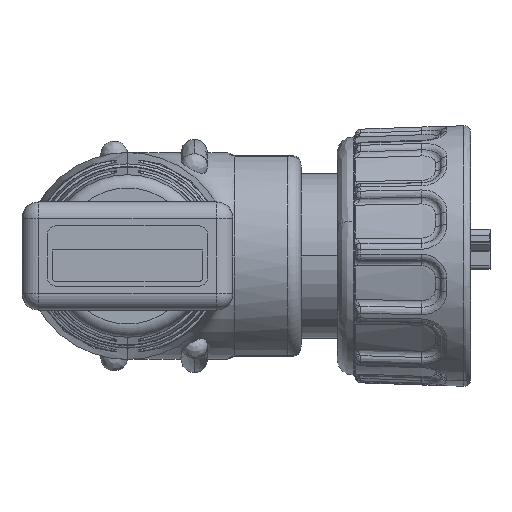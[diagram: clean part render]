
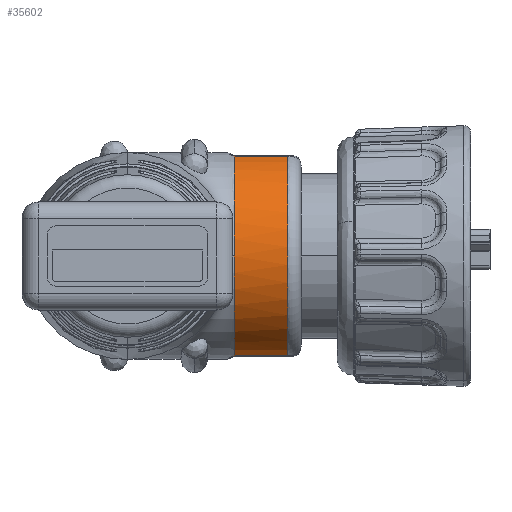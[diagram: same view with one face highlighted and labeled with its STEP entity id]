
A CAD part, front view. The second image highlights one B-rep face of the part: STEP entity #35602.
In plain terms, the highlighted cylindrical face has radius 7.75 mm (diameter 15.5 mm), a partial arc.
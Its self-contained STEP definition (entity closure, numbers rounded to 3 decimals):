
#16073 = CARTESIAN_POINT ( 'NONE',  ( -4.866, -2.018, 7.483 ) ) ;
#16074 = CARTESIAN_POINT ( 'NONE',  ( -1., -2.018, 7.483 ) ) ;
#16128 = CARTESIAN_POINT ( 'NONE',  ( -5., -1.982, 7.492 ) ) ;
#16129 = CARTESIAN_POINT ( 'NONE',  ( -4.959, -2.004, 7.486 ) ) ;
#16130 = CARTESIAN_POINT ( 'NONE',  ( -4.913, -2.018, 7.483 ) ) ;
#16131 = CARTESIAN_POINT ( 'NONE',  ( -4.866, -2.018, 7.483 ) ) ;
#16136 = B_SPLINE_CURVE_WITH_KNOTS ( 'NONE', 3,
 ( #16131, #16130, #16129, #16128 ),
 .UNSPECIFIED., .F., .F.,
 ( 4, 4 ),
 ( 0., 0. ),
 .UNSPECIFIED. ) ;
#16141 = DIRECTION ( 'NONE',  ( -1., 0., 0. ) ) ;
#16142 = VECTOR ( 'NONE', #16141, 1000. ) ;
#16143 = CARTESIAN_POINT ( 'NONE',  ( -5., -2.018, 7.483 ) ) ;
#16144 = LINE ( 'NONE', #16143, #16142 ) ;
#16179 = CARTESIAN_POINT ( 'NONE',  ( -5., -1.982, -7.492 ) ) ;
#16184 = B_SPLINE_CURVE_WITH_KNOTS ( 'NONE', 3,
 ( #16179, #16238, #16237, #16236 ),
 .UNSPECIFIED., .F., .F.,
 ( 4, 4 ),
 ( 0., 0. ),
 .UNSPECIFIED. ) ;
#16196 = LINE ( 'NONE', #16213, #16267 ) ;
#16198 = CARTESIAN_POINT ( 'NONE',  ( -4.866, -2.018, -7.483 ) ) ;
#16213 = CARTESIAN_POINT ( 'NONE',  ( -5., -2.018, -7.483 ) ) ;
#16216 = CARTESIAN_POINT ( 'NONE',  ( -1., -2.018, -7.483 ) ) ;
#16217 = CIRCLE ( 'NONE', #16263, 7.75 ) ;
#16236 = CARTESIAN_POINT ( 'NONE',  ( -4.866, -2.018, -7.483 ) ) ;
#16237 = CARTESIAN_POINT ( 'NONE',  ( -4.913, -2.018, -7.483 ) ) ;
#16238 = CARTESIAN_POINT ( 'NONE',  ( -4.959, -2.004, -7.486 ) ) ;
#16260 = DIRECTION ( 'NONE',  ( 0., 0., -1. ) ) ;
#16261 = DIRECTION ( 'NONE',  ( -1., 0., 0. ) ) ;
#16262 = CARTESIAN_POINT ( 'NONE',  ( -1., 0., 0. ) ) ;
#16263 = AXIS2_PLACEMENT_3D ( 'NONE', #16262, #16261, #16260 ) ;
#16266 = DIRECTION ( 'NONE',  ( 1., 0., 0. ) ) ;
#16267 = VECTOR ( 'NONE', #16266, 1000. ) ;
#20106 = DIRECTION ( 'NONE',  ( 0., 0., -1. ) ) ;
#20107 = AXIS2_PLACEMENT_3D ( 'NONE', #20116, #20114, #20106 ) ;
#20108 = CIRCLE ( 'NONE', #20107, 7.75 ) ;
#20114 = DIRECTION ( 'NONE',  ( 1., 0., 0. ) ) ;
#20116 = CARTESIAN_POINT ( 'NONE',  ( -5., 0., 0. ) ) ;
#20607 = CARTESIAN_POINT ( 'NONE',  ( -5., -1.982, -7.492 ) ) ;
#22684 = CARTESIAN_POINT ( 'NONE',  ( -5., -1.982, 7.492 ) ) ;
#22719 = DIRECTION ( 'NONE',  ( 0., 0., -1. ) ) ;
#22720 = DIRECTION ( 'NONE',  ( 1., 0., 0. ) ) ;
#22721 = AXIS2_PLACEMENT_3D ( 'NONE', #22726, #22720, #22719 ) ;
#22726 = CARTESIAN_POINT ( 'NONE',  ( -5., 0., 0. ) ) ;
#22727 = CIRCLE ( 'NONE', #22721, 7.75 ) ;
#23004 = CARTESIAN_POINT ( 'NONE',  ( -5., -7.75, 0. ) ) ;
#24264 = CARTESIAN_POINT ( 'NONE',  ( -5., 0., 0. ) ) ;
#24286 = AXIS2_PLACEMENT_3D ( 'NONE', #24264, #24294, #24338 ) ;
#24287 = CYLINDRICAL_SURFACE ( 'NONE', #24286, 7.75 ) ;
#24288 = FACE_OUTER_BOUND ( 'NONE', #35600, .T. ) ;
#24294 = DIRECTION ( 'NONE',  ( 1., 0., 0. ) ) ;
#24338 = DIRECTION ( 'NONE',  ( 0., 0., -1. ) ) ;
#29849 = EDGE_CURVE ( 'NONE', #35348, #32967, #20108, .T. ) ;
#32967 = VERTEX_POINT ( 'NONE', #20607 ) ;
#35265 = EDGE_CURVE ( 'NONE', #35268, #35348, #22727, .T. ) ;
#35268 = VERTEX_POINT ( 'NONE', #22684 ) ;
#35348 = VERTEX_POINT ( 'NONE', #23004 ) ;
#35597 = ORIENTED_EDGE ( 'NONE', *, *, #35265, .T. ) ;
#35598 = ORIENTED_EDGE ( 'NONE', *, *, #29849, .T. ) ;
#35600 = EDGE_LOOP ( 'NONE', ( #35597, #35598, #35601, #43687, #43692, #43689, #43683 ) ) ;
#35601 = ORIENTED_EDGE ( 'NONE', *, *, #43661, .T. ) ;
#35602 = ADVANCED_FACE ( 'NONE', ( #24288 ), #24287, .T. ) ;
#43613 = VERTEX_POINT ( 'NONE', #16073 ) ;
#43614 = EDGE_CURVE ( 'NONE', #43615, #43613, #16144, .T. ) ;
#43615 = VERTEX_POINT ( 'NONE', #16074 ) ;
#43616 = EDGE_CURVE ( 'NONE', #43613, #35268, #16136, .T. ) ;
#43660 = VERTEX_POINT ( 'NONE', #16198 ) ;
#43661 = EDGE_CURVE ( 'NONE', #32967, #43660, #16184, .T. ) ;
#43683 = ORIENTED_EDGE ( 'NONE', *, *, #43616, .T. ) ;
#43684 = EDGE_CURVE ( 'NONE', #43660, #43688, #16196, .T. ) ;
#43685 = EDGE_CURVE ( 'NONE', #43688, #43615, #16217, .T. ) ;
#43687 = ORIENTED_EDGE ( 'NONE', *, *, #43684, .T. ) ;
#43688 = VERTEX_POINT ( 'NONE', #16216 ) ;
#43689 = ORIENTED_EDGE ( 'NONE', *, *, #43614, .T. ) ;
#43692 = ORIENTED_EDGE ( 'NONE', *, *, #43685, .T. ) ;
